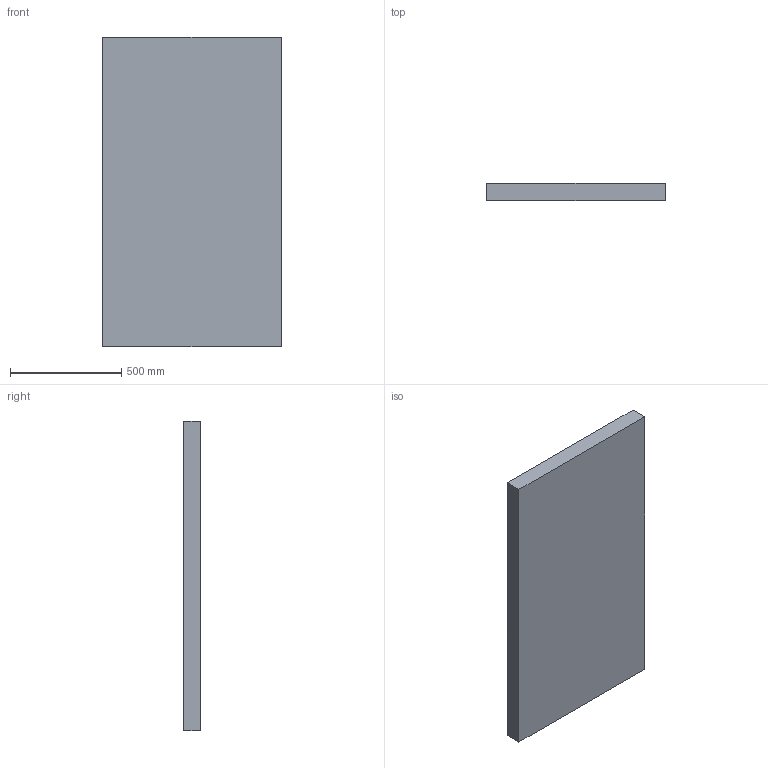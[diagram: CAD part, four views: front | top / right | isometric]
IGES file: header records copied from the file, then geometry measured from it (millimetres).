
Start section:  PTC IGES file: fr_spl_wide_cen_gap_plate.igs
Global section: file name: fr_spl_wide_cen_gap_plate.igs; native system: Pro/ENGINEER by Parametric Technology Corporation; preprocessor: 1999260; author: oshatz; organization: Unknown; date: 000922.101456; units: millimetre
Bounding box: 800 x 75 x 1389 mm (x, y, z)
Surface area: 2550750 mm2 (no closed solid volume)
Topology: 0 solids, 0 shells, 6 faces, 24 edges, 24 vertices
Faces by surface type: bspline 6
